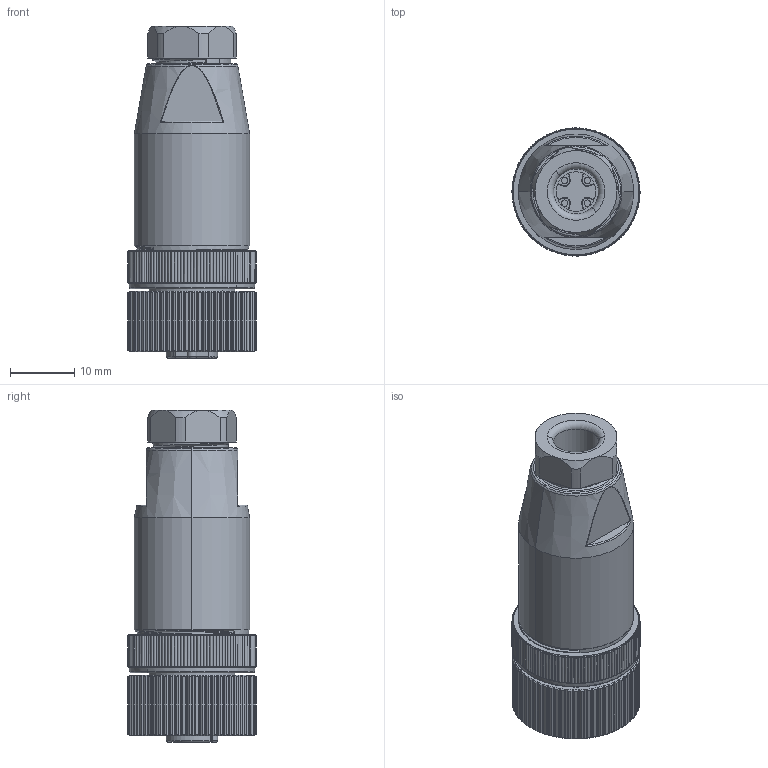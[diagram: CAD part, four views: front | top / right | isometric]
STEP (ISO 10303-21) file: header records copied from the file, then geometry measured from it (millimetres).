
FILE_DESCRIPTION((''),'2;1');
FILE_NAME('XC-M12-WK-PG7','2025-06-20T17:00:47',('lyj'),(''),'CREO PARAMETRIC BY PTC INC, 2019010','CREO PARAMETRIC BY PTC INC, 2019010','');
FILE_SCHEMA(('CONFIG_CONTROL_DESIGN'));
Products named in the file (1): XC-M12-WK-PG7
Bounding box: 20 x 20 x 51.86 mm (x, y, z)
Volume: 8532.9 mm3; surface area: 10446 mm2
Topology: 1 solids, 9 shells, 1480 faces, 3944 edges, 2525 vertices
Faces by surface type: cylinder 600, cone 405, plane 376, bspline 56, extrusion 29, torus 14
Entity records: 72954 total; most frequent: CARTESIAN_POINT 37736, ORIENTED_EDGE 7888, DIRECTION 6722, EDGE_CURVE 3944, AXIS2_PLACEMENT_3D 2690, VERTEX_POINT 2525, EDGE_LOOP 1559, FACE_OUTER_BOUND 1480
